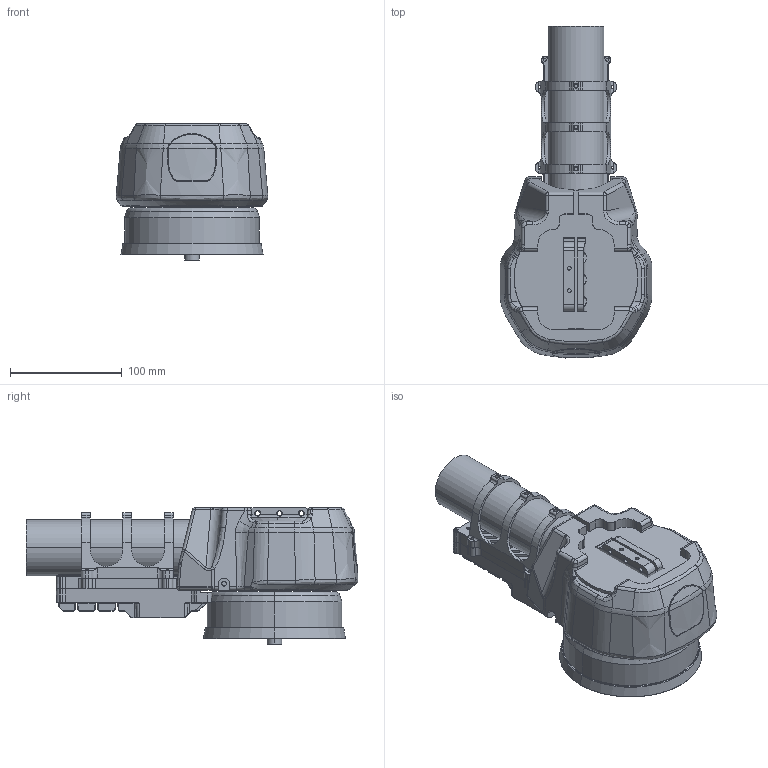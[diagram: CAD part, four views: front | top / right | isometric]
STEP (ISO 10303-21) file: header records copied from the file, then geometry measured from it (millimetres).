
FILE_DESCRIPTION (( 'STEP AP203' ), '1' );
FILE_NAME ('A12.STEP', '2024-05-31T02:05:12', ( '' ), ( '' ), 'SwSTEP 2.0', 'SolidWorks 2022', '' );
FILE_SCHEMA (( 'CONFIG_CONTROL_DESIGN' ));
Length unit declared in the file: millimetre
Products named in the file (1): A12
Bounding box: 135.67 x 296.58 x 122.1 mm (x, y, z)
Volume: 1869369.1 mm3; surface area: 310422.2 mm2
Topology: 9 solids, 11 shells, 2894 faces, 7588 edges, 4692 vertices
Faces by surface type: cylinder 1126, plane 942, bspline 583, cone 119, torus 98, sphere 26
Entity records: 105841 total; most frequent: CARTESIAN_POINT 39131, ORIENTED_EDGE 15148, DIRECTION 12844, EDGE_CURVE 7574, VERTEX_POINT 4690, AXIS2_PLACEMENT_3D 4547, VECTOR 3750, LINE 3750
